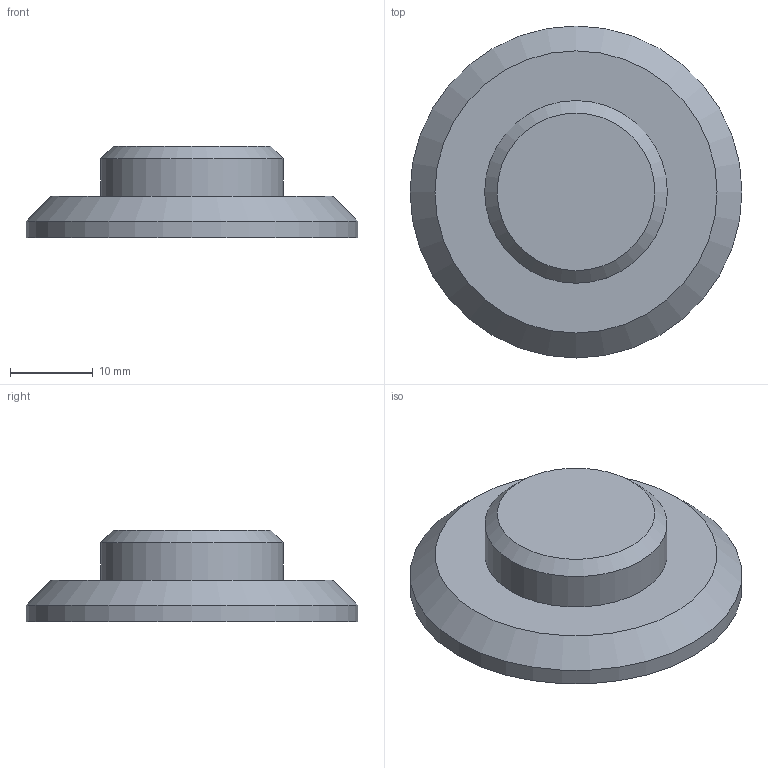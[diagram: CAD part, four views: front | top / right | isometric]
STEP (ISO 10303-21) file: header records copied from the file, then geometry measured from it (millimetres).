
FILE_DESCRIPTION(/* description */ ('','CAx-IF Rec.Pracs.---Representation and Presentation of Product Manufacturing Information (PMI)---4.0---2014-10-13'),/* implementation_level */ '2;1');
FILE_NAME(/* name */ '03 foot x8.step',/* time_stamp */ '2025-03-16T12:22:37+01:00',/* author */ (''),/* organization */ (''),/* preprocessor_version */ 'ST-DEVELOPER v20',/* originating_system */ 'Autodesk Translation Framework v13.20.0.188',/* authorisation */ '');
FILE_SCHEMA (('AP242_MANAGED_MODEL_BASED_3D_ENGINEERING_MIM_LF { 1 0 10303 442 1 1 4 }'));
Length unit declared in the file: millimetre
Products named in the file (1): flexi2
Bounding box: 40 x 40 x 11 mm (x, y, z)
Volume: 7952.5 mm3; surface area: 3260.1 mm2
Topology: 1 solids, 1 shells, 7 faces, 10 edges, 6 vertices
Faces by surface type: plane 3, cone 2, cylinder 2
Full cylindrical faces by diameter (mm): 22 x1, 40 x1
Entity records: 187 total; most frequent: DIRECTION 32, CARTESIAN_POINT 24, ORIENTED_EDGE 20, AXIS2_PLACEMENT_3D 14, EDGE_CURVE 10, EDGE_LOOP 8, FACE_OUTER_BOUND 7, ADVANCED_FACE 7
